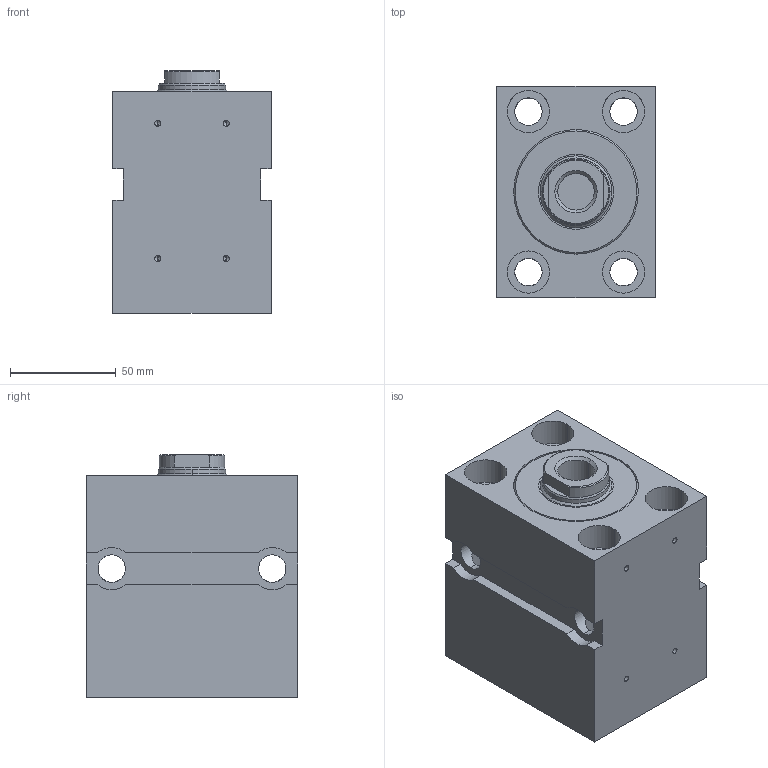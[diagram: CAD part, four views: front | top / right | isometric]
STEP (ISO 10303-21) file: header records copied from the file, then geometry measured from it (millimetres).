
FILE_DESCRIPTION (( 'STEP AP203' ), '1' );
FILE_NAME ('BZ_500.50_32.78.201.040 PP.KBC44__DH_0_.STEP', '2022-05-30T10:29:32', ( '' ), ( '' ), 'SwSTEP 2.0', 'SolidWorks 2020', '' );
FILE_SCHEMA (( 'CONFIG_CONTROL_DESIGN' ));
Length unit declared in the file: millimetre
Products named in the file (6): BZ_500.50_32.78.201.040 PP.KBC44__DH_0_(2)^BZ_500.50_32.78.201.040 PP.KBC44__DH_0_; _Dichtungssatz f. BZ_RZ_FZ.50_32.xx.201.40 Artikelnr._ 013676(0)^BZ_500.50_32.78.201.040 PP.KBC44__DH_0_(2)_BZ_500.50_32.78.201.040 PP.KBC44__DH_0_; _Gehaeuse f. BZ500.50_32.Fehler in IDBF.201.40Fehler in IDNT00(1344frei278000))7^BZ_500.50_32.78.201.040 PP.KBC44__DH_0_(2)_BZ_500.50_32.78.201.040 PP.KBC44__DH_0_; _Verschraubung komplett mit Dichtung f. BZ_RZ_FZ.50_32.201, Art.-Nr._ 042986(201)^BZ_500.50_32.78.201.040 PP.KBC44__DH_0_(2)_BZ_500.50_32.78.201.040 PP.KBC44__DH_0_; BZ_500.50_32.78.201.040 PP.KBC44__DH_0_; _Kolbenstange komplett f. BZ_RZ_FZ.50_32.xx.201.40(0_11 1 20 2.5 0 0 10 30 0 0 0)0^BZ_500.50_32.78.201.040 PP.KBC44__DH_0_(2)_BZ_500.50_32.78.201.040 PP.KBC44__DH_0_
Assembly tree (5 placements, depth 3):
  BZ_500.50_32.78.201.040 PP.KBC44__DH_0_
    BZ_500.50_32.78.201.040 PP.KBC44__DH_0_(2)^BZ_500.50_32.78.201.040 PP.KBC44__DH_0_
      _Gehaeuse f. BZ500.50_32.Fehler in IDBF.201.40Fehler in IDNT00(1344frei278000))7^BZ_500.50_32.78.201.040 PP.KBC44__DH_0_(2)_BZ_500.50_32.78.201.040 PP.KBC44__DH_0_
      _Verschraubung komplett mit Dichtung f. BZ_RZ_FZ.50_32.201, Art.-Nr._ 042986(201)^BZ_500.50_32.78.201.040 PP.KBC44__DH_0_(2)_BZ_500.50_32.78.201.040 PP.KBC44__DH_0_
      _Dichtungssatz f. BZ_RZ_FZ.50_32.xx.201.40 Artikelnr._ 013676(0)^BZ_500.50_32.78.201.040 PP.KBC44__DH_0_(2)_BZ_500.50_32.78.201.040 PP.KBC44__DH_0_
      _Kolbenstange komplett f. BZ_RZ_FZ.50_32.xx.201.40(0_11 1 20 2.5 0 0 10 30 0 0 0)0^BZ_500.50_32.78.201.040 PP.KBC44__DH_0_(2)_BZ_500.50_32.78.201.040 PP.KBC44__DH_0_
Bounding box: 75 x 100 x 115 mm (x, y, z)
Volume: 633382.4 mm3; surface area: 123522.4 mm2
Topology: 4 solids, 4 shells, 176 faces, 426 edges, 263 vertices
Faces by surface type: cylinder 102, plane 52, cone 22
Entity records: 5959 total; most frequent: CARTESIAN_POINT 1152, DIRECTION 935, ORIENTED_EDGE 836, EDGE_CURVE 418, AXIS2_PLACEMENT_3D 372, VERTEX_POINT 263, EDGE_LOOP 217, LINE 191
